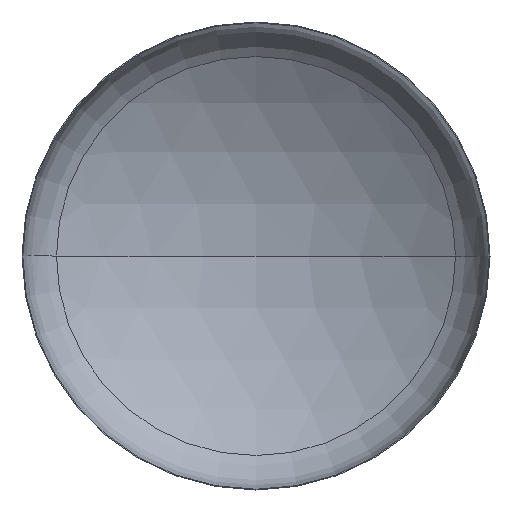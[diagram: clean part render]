
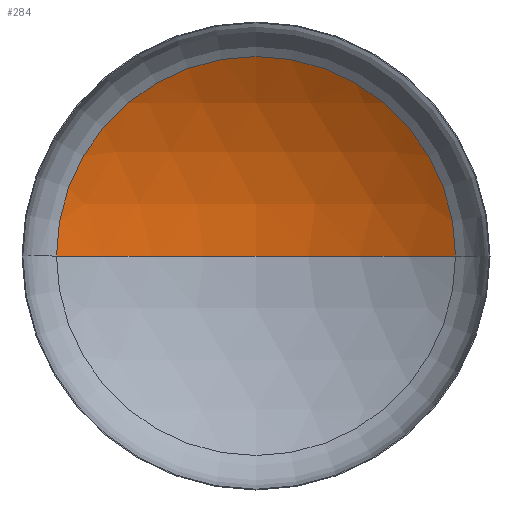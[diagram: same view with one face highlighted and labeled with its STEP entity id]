
A CAD part, front view. The second image highlights one B-rep face of the part: STEP entity #284.
In plain terms, the highlighted spherical face has radius 2880 mm.
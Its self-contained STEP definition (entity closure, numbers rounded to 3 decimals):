
#15 = CARTESIAN_POINT ( 'NONE',  ( 0., 932.64, 0. ) ) ;
#21 = AXIS2_PLACEMENT_3D ( 'NONE', #177, #220, #268 ) ;
#22 = EDGE_LOOP ( 'NONE', ( #216, #142, #96 ) ) ;
#24 = AXIS2_PLACEMENT_3D ( 'NONE', #385, #288, #221 ) ;
#25 = AXIS2_PLACEMENT_3D ( 'NONE', #178, #315, #172 ) ;
#60 = AXIS2_PLACEMENT_3D ( 'NONE', #201, #192, #212 ) ;
#96 = ORIENTED_EDGE ( 'NONE', *, *, #355, .T. ) ;
#116 = VERTEX_POINT ( 'NONE', #191 ) ;
#128 = VERTEX_POINT ( 'NONE', #300 ) ;
#139 = VERTEX_POINT ( 'NONE', #15 ) ;
#142 = ORIENTED_EDGE ( 'NONE', *, *, #356, .T. ) ;
#164 = CIRCLE ( 'NONE', #25, 1534.761 ) ;
#172 = DIRECTION ( 'NONE',  ( 1., 0., 0. ) ) ;
#177 = CARTESIAN_POINT ( 'NONE',  ( 0., -1947.36, 0. ) ) ;
#178 = CARTESIAN_POINT ( 'NONE',  ( 0., 489.628, 0. ) ) ;
#180 = FACE_OUTER_BOUND ( 'NONE', #22, .T. ) ;
#191 = CARTESIAN_POINT ( 'NONE',  ( 1534.761, 489.628, 0. ) ) ;
#192 = DIRECTION ( 'NONE',  ( 0., 0., -1. ) ) ;
#201 = CARTESIAN_POINT ( 'NONE',  ( 0., -1947.36, 0. ) ) ;
#212 = DIRECTION ( 'NONE',  ( -1., 0., 0. ) ) ;
#216 = ORIENTED_EDGE ( 'NONE', *, *, #363, .F. ) ;
#220 = DIRECTION ( 'NONE',  ( 0., 0., 1. ) ) ;
#221 = DIRECTION ( 'NONE',  ( -1., 0., 0. ) ) ;
#242 = SPHERICAL_SURFACE ( 'NONE', #60, 2880. ) ;
#268 = DIRECTION ( 'NONE',  ( 1., 0., 0. ) ) ;
#279 = CIRCLE ( 'NONE', #21, 2880. ) ;
#284 = ADVANCED_FACE ( 'NONE', ( #180 ), #242, .F. ) ;
#288 = DIRECTION ( 'NONE',  ( 0., 0., -1. ) ) ;
#300 = CARTESIAN_POINT ( 'NONE',  ( -1534.761, 489.628, 0. ) ) ;
#315 = DIRECTION ( 'NONE',  ( 0., -1., 0. ) ) ;
#348 = CIRCLE ( 'NONE', #24, 2880. ) ;
#355 = EDGE_CURVE ( 'NONE', #116, #128, #164, .T. ) ;
#356 = EDGE_CURVE ( 'NONE', #139, #116, #348, .T. ) ;
#363 = EDGE_CURVE ( 'NONE', #139, #128, #279, .T. ) ;
#385 = CARTESIAN_POINT ( 'NONE',  ( 0., -1947.36, 0. ) ) ;
